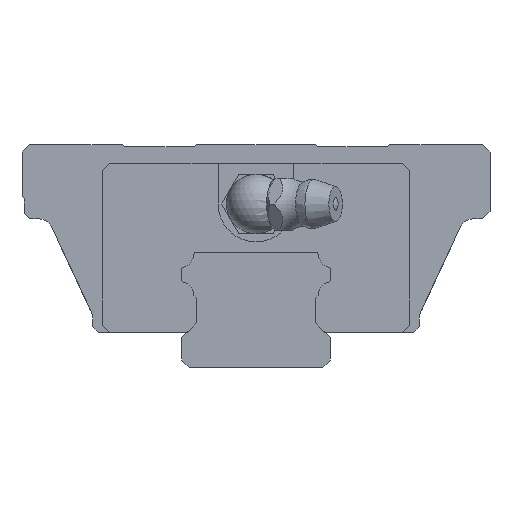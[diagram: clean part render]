
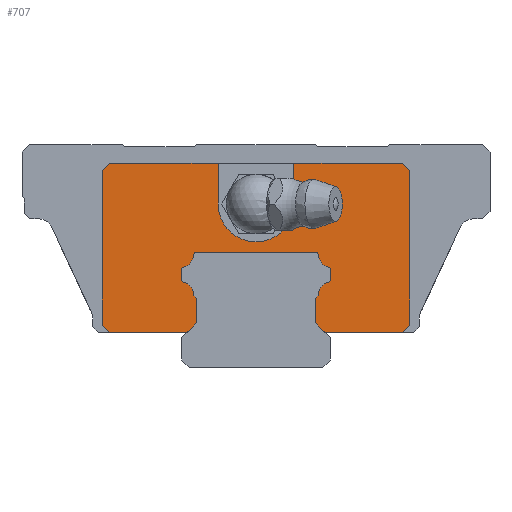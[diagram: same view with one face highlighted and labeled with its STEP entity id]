
A CAD part, front view. The second image highlights one B-rep face of the part: STEP entity #707.
In plain terms, the highlighted planar face has unit normal (0, -1, 0).
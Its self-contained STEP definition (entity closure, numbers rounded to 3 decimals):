
#564=CIRCLE('',#3988,5.1);
#565=CIRCLE('',#3993,1.9);
#566=CIRCLE('',#3994,0.3);
#567=CIRCLE('',#3995,0.3);
#568=CIRCLE('',#3996,1.9);
#569=CIRCLE('',#3997,0.3);
#570=CIRCLE('',#3998,0.3);
#571=CIRCLE('',#3999,1.9);
#572=CIRCLE('',#4000,0.3);
#573=CIRCLE('',#4001,0.3);
#574=CIRCLE('',#4002,1.9);
#707=ADVANCED_FACE('',(#1011),#877,.T.);
#877=PLANE('',#4003);
#1011=FACE_OUTER_BOUND('',#1210,.T.);
#1210=EDGE_LOOP('',(#1747,#1748,#1749,#1750,#1751,#1752,#1753,#1754,#1755,
#1756,#1757,#1758,#1759,#1760,#1761,#1762,#1763,#1764,#1765,#1766,#1767,
#1768,#1769,#1770,#1771,#1772,#1773,#1774,#1775,#1776,#1777,#1778));
#1747=ORIENTED_EDGE('',*,*,#2915,.T.);
#1748=ORIENTED_EDGE('',*,*,#2916,.T.);
#1749=ORIENTED_EDGE('',*,*,#2917,.F.);
#1750=ORIENTED_EDGE('',*,*,#2918,.F.);
#1751=ORIENTED_EDGE('',*,*,#2919,.F.);
#1752=ORIENTED_EDGE('',*,*,#2920,.F.);
#1753=ORIENTED_EDGE('',*,*,#2921,.F.);
#1754=ORIENTED_EDGE('',*,*,#2909,.T.);
#1755=ORIENTED_EDGE('',*,*,#2906,.T.);
#1756=ORIENTED_EDGE('',*,*,#2914,.T.);
#1757=ORIENTED_EDGE('',*,*,#2922,.F.);
#1758=ORIENTED_EDGE('',*,*,#2923,.F.);
#1759=ORIENTED_EDGE('',*,*,#2924,.F.);
#1760=ORIENTED_EDGE('',*,*,#2925,.F.);
#1761=ORIENTED_EDGE('',*,*,#2926,.F.);
#1762=ORIENTED_EDGE('',*,*,#2927,.T.);
#1763=ORIENTED_EDGE('',*,*,#2928,.T.);
#1764=ORIENTED_EDGE('',*,*,#2929,.T.);
#1765=ORIENTED_EDGE('',*,*,#2930,.T.);
#1766=ORIENTED_EDGE('',*,*,#2931,.T.);
#1767=ORIENTED_EDGE('',*,*,#2932,.T.);
#1768=ORIENTED_EDGE('',*,*,#2933,.T.);
#1769=ORIENTED_EDGE('',*,*,#2934,.T.);
#1770=ORIENTED_EDGE('',*,*,#2935,.T.);
#1771=ORIENTED_EDGE('',*,*,#2936,.T.);
#1772=ORIENTED_EDGE('',*,*,#2937,.T.);
#1773=ORIENTED_EDGE('',*,*,#2938,.T.);
#1774=ORIENTED_EDGE('',*,*,#2939,.T.);
#1775=ORIENTED_EDGE('',*,*,#2940,.T.);
#1776=ORIENTED_EDGE('',*,*,#2941,.T.);
#1777=ORIENTED_EDGE('',*,*,#2942,.T.);
#1778=ORIENTED_EDGE('',*,*,#2943,.T.);
#2511=VERTEX_POINT('',#5806);
#2512=VERTEX_POINT('',#5808);
#2514=VERTEX_POINT('',#5814);
#2516=VERTEX_POINT('',#5822);
#2517=VERTEX_POINT('',#5826);
#2518=VERTEX_POINT('',#5827);
#2519=VERTEX_POINT('',#5829);
#2520=VERTEX_POINT('',#5831);
#2521=VERTEX_POINT('',#5833);
#2522=VERTEX_POINT('',#5835);
#2523=VERTEX_POINT('',#5837);
#2524=VERTEX_POINT('',#5840);
#2525=VERTEX_POINT('',#5842);
#2526=VERTEX_POINT('',#5844);
#2527=VERTEX_POINT('',#5846);
#2528=VERTEX_POINT('',#5848);
#2529=VERTEX_POINT('',#5850);
#2530=VERTEX_POINT('',#5852);
#2531=VERTEX_POINT('',#5854);
#2532=VERTEX_POINT('',#5856);
#2533=VERTEX_POINT('',#5858);
#2534=VERTEX_POINT('',#5860);
#2535=VERTEX_POINT('',#5862);
#2536=VERTEX_POINT('',#5864);
#2537=VERTEX_POINT('',#5866);
#2538=VERTEX_POINT('',#5868);
#2539=VERTEX_POINT('',#5870);
#2540=VERTEX_POINT('',#5872);
#2541=VERTEX_POINT('',#5874);
#2542=VERTEX_POINT('',#5876);
#2543=VERTEX_POINT('',#5878);
#2544=VERTEX_POINT('',#5880);
#2906=EDGE_CURVE('',#2512,#2511,#564,.T.);
#2909=EDGE_CURVE('',#2514,#2512,#3323,.T.);
#2914=EDGE_CURVE('',#2511,#2516,#3328,.T.);
#2915=EDGE_CURVE('',#2517,#2518,#3329,.T.);
#2916=EDGE_CURVE('',#2518,#2519,#3330,.T.);
#2917=EDGE_CURVE('',#2520,#2519,#3331,.T.);
#2918=EDGE_CURVE('',#2521,#2520,#3332,.T.);
#2919=EDGE_CURVE('',#2522,#2521,#3333,.T.);
#2920=EDGE_CURVE('',#2523,#2522,#3334,.T.);
#2921=EDGE_CURVE('',#2514,#2523,#3335,.T.);
#2922=EDGE_CURVE('',#2524,#2516,#3336,.T.);
#2923=EDGE_CURVE('',#2525,#2524,#3337,.T.);
#2924=EDGE_CURVE('',#2526,#2525,#3338,.T.);
#2925=EDGE_CURVE('',#2527,#2526,#3339,.T.);
#2926=EDGE_CURVE('',#2528,#2527,#3340,.T.);
#2927=EDGE_CURVE('',#2528,#2529,#3341,.T.);
#2928=EDGE_CURVE('',#2529,#2530,#3342,.T.);
#2929=EDGE_CURVE('',#2530,#2531,#3343,.T.);
#2930=EDGE_CURVE('',#2531,#2532,#565,.T.);
#2931=EDGE_CURVE('',#2532,#2533,#566,.T.);
#2932=EDGE_CURVE('',#2533,#2534,#3344,.T.);
#2933=EDGE_CURVE('',#2534,#2535,#567,.T.);
#2934=EDGE_CURVE('',#2535,#2536,#568,.T.);
#2935=EDGE_CURVE('',#2536,#2537,#569,.T.);
#2936=EDGE_CURVE('',#2537,#2538,#3345,.T.);
#2937=EDGE_CURVE('',#2538,#2539,#570,.T.);
#2938=EDGE_CURVE('',#2539,#2540,#571,.T.);
#2939=EDGE_CURVE('',#2540,#2541,#572,.T.);
#2940=EDGE_CURVE('',#2541,#2542,#3346,.T.);
#2941=EDGE_CURVE('',#2542,#2543,#573,.T.);
#2942=EDGE_CURVE('',#2543,#2544,#574,.T.);
#2943=EDGE_CURVE('',#2544,#2517,#3347,.T.);
#3323=LINE('',#5813,#3653);
#3328=LINE('',#5823,#3658);
#3329=LINE('',#5825,#3659);
#3330=LINE('',#5828,#3660);
#3331=LINE('',#5830,#3661);
#3332=LINE('',#5832,#3662);
#3333=LINE('',#5834,#3663);
#3334=LINE('',#5836,#3664);
#3335=LINE('',#5838,#3665);
#3336=LINE('',#5839,#3666);
#3337=LINE('',#5841,#3667);
#3338=LINE('',#5843,#3668);
#3339=LINE('',#5845,#3669);
#3340=LINE('',#5847,#3670);
#3341=LINE('',#5849,#3671);
#3342=LINE('',#5851,#3672);
#3343=LINE('',#5853,#3673);
#3344=LINE('',#5859,#3674);
#3345=LINE('',#5867,#3675);
#3346=LINE('',#5875,#3676);
#3347=LINE('',#5881,#3677);
#3653=VECTOR('',#4598,1.);
#3658=VECTOR('',#4607,1.);
#3659=VECTOR('',#4610,1.);
#3660=VECTOR('',#4611,1.);
#3661=VECTOR('',#4612,1.);
#3662=VECTOR('',#4613,1.);
#3663=VECTOR('',#4614,1.);
#3664=VECTOR('',#4615,1.);
#3665=VECTOR('',#4616,1.);
#3666=VECTOR('',#4617,1.);
#3667=VECTOR('',#4618,1.);
#3668=VECTOR('',#4619,1.);
#3669=VECTOR('',#4620,1.);
#3670=VECTOR('',#4621,1.);
#3671=VECTOR('',#4622,1.);
#3672=VECTOR('',#4623,1.);
#3673=VECTOR('',#4624,1.);
#3674=VECTOR('',#4629,1.);
#3675=VECTOR('',#4636,1.);
#3676=VECTOR('',#4643,1.);
#3677=VECTOR('',#4648,1.);
#3988=AXIS2_PLACEMENT_3D('',#5807,#4592,#4593);
#3993=AXIS2_PLACEMENT_3D('',#5855,#4625,#4626);
#3994=AXIS2_PLACEMENT_3D('',#5857,#4627,#4628);
#3995=AXIS2_PLACEMENT_3D('',#5861,#4630,#4631);
#3996=AXIS2_PLACEMENT_3D('',#5863,#4632,#4633);
#3997=AXIS2_PLACEMENT_3D('',#5865,#4634,#4635);
#3998=AXIS2_PLACEMENT_3D('',#5869,#4637,#4638);
#3999=AXIS2_PLACEMENT_3D('',#5871,#4639,#4640);
#4000=AXIS2_PLACEMENT_3D('',#5873,#4641,#4642);
#4001=AXIS2_PLACEMENT_3D('',#5877,#4644,#4645);
#4002=AXIS2_PLACEMENT_3D('',#5879,#4646,#4647);
#4003=AXIS2_PLACEMENT_3D('',#5882,#4649,#4650);
#4592=DIRECTION('',(0.,1.,0.));
#4593=DIRECTION('',(-1.,0.,0.));
#4598=DIRECTION('',(0.,0.,-1.));
#4607=DIRECTION('',(0.,0.,1.));
#4610=DIRECTION('',(0.,0.,-1.));
#4611=DIRECTION('',(0.707,0.,-0.707));
#4612=DIRECTION('',(-1.,0.,0.));
#4613=DIRECTION('',(-0.707,0.,-0.707));
#4614=DIRECTION('',(0.,0.,-1.));
#4615=DIRECTION('',(0.707,0.,-0.707));
#4616=DIRECTION('',(1.,0.,0.));
#4617=DIRECTION('',(1.,0.,0.));
#4618=DIRECTION('',(0.707,0.,0.707));
#4619=DIRECTION('',(0.,0.,1.));
#4620=DIRECTION('',(-0.707,0.,0.707));
#4621=DIRECTION('',(-1.,0.,0.));
#4622=DIRECTION('',(0.707,0.,0.707));
#4623=DIRECTION('',(0.,0.,1.));
#4624=DIRECTION('',(-0.707,0.,0.707));
#4625=DIRECTION('',(0.,-1.,0.));
#4626=DIRECTION('',(1.,0.,0.));
#4627=DIRECTION('',(0.,1.,0.));
#4628=DIRECTION('',(1.,0.,0.));
#4629=DIRECTION('',(0.,0.,1.));
#4630=DIRECTION('',(0.,1.,0.));
#4631=DIRECTION('',(1.,0.,0.));
#4632=DIRECTION('',(0.,-1.,0.));
#4633=DIRECTION('',(1.,0.,0.));
#4634=DIRECTION('',(0.,1.,0.));
#4635=DIRECTION('',(1.,0.,0.));
#4636=DIRECTION('',(1.,0.,0.));
#4637=DIRECTION('',(0.,1.,0.));
#4638=DIRECTION('',(1.,0.,0.));
#4639=DIRECTION('',(0.,-1.,0.));
#4640=DIRECTION('',(1.,0.,0.));
#4641=DIRECTION('',(0.,1.,0.));
#4642=DIRECTION('',(1.,0.,0.));
#4643=DIRECTION('',(0.,0.,-1.));
#4644=DIRECTION('',(0.,1.,0.));
#4645=DIRECTION('',(1.,0.,0.));
#4646=DIRECTION('',(0.,-1.,0.));
#4647=DIRECTION('',(1.,0.,0.));
#4648=DIRECTION('',(-0.707,0.,-0.707));
#4649=DIRECTION('',(0.,-1.,0.));
#4650=DIRECTION('',(0.,0.,-1.));
#5806=CARTESIAN_POINT('',(-5.1,-19.6,22.));
#5807=CARTESIAN_POINT('',(0.,-19.6,22.));
#5808=CARTESIAN_POINT('',(5.1,-19.6,22.));
#5813=CARTESIAN_POINT('',(5.1,-19.6,27.5));
#5814=CARTESIAN_POINT('',(5.1,-19.6,27.5));
#5822=CARTESIAN_POINT('',(-5.1,-19.6,27.5));
#5823=CARTESIAN_POINT('',(-5.1,-19.6,22.));
#5825=CARTESIAN_POINT('',(8.,-19.6,22.));
#5826=CARTESIAN_POINT('',(8.,-19.6,9.3));
#5827=CARTESIAN_POINT('',(8.,-19.6,6.));
#5828=CARTESIAN_POINT('',(-4.,-19.6,18.));
#5829=CARTESIAN_POINT('',(9.3,-19.6,4.7));
#5830=CARTESIAN_POINT('',(19.7,-19.6,4.7));
#5831=CARTESIAN_POINT('',(19.7,-19.6,4.7));
#5832=CARTESIAN_POINT('',(20.7,-19.6,5.7));
#5833=CARTESIAN_POINT('',(20.7,-19.6,5.7));
#5834=CARTESIAN_POINT('',(20.7,-19.6,26.5));
#5835=CARTESIAN_POINT('',(20.7,-19.6,26.5));
#5836=CARTESIAN_POINT('',(19.7,-19.6,27.5));
#5837=CARTESIAN_POINT('',(19.7,-19.6,27.5));
#5838=CARTESIAN_POINT('',(-19.7,-19.6,27.5));
#5839=CARTESIAN_POINT('',(-19.7,-19.6,27.5));
#5840=CARTESIAN_POINT('',(-19.7,-19.6,27.5));
#5841=CARTESIAN_POINT('',(-20.7,-19.6,26.5));
#5842=CARTESIAN_POINT('',(-20.7,-19.6,26.5));
#5843=CARTESIAN_POINT('',(-20.7,-19.6,5.7));
#5844=CARTESIAN_POINT('',(-20.7,-19.6,5.7));
#5845=CARTESIAN_POINT('',(-19.7,-19.6,4.7));
#5846=CARTESIAN_POINT('',(-19.7,-19.6,4.7));
#5847=CARTESIAN_POINT('',(19.7,-19.6,4.7));
#5848=CARTESIAN_POINT('',(-9.3,-19.6,4.7));
#5849=CARTESIAN_POINT('',(4.,-19.6,18.));
#5850=CARTESIAN_POINT('',(-8.,-19.6,6.));
#5851=CARTESIAN_POINT('',(-8.,-19.6,22.));
#5852=CARTESIAN_POINT('',(-8.,-19.6,9.3));
#5853=CARTESIAN_POINT('',(-10.35,-19.6,11.65));
#5854=CARTESIAN_POINT('',(-8.349,-19.6,9.649));
#5855=CARTESIAN_POINT('',(-10.249,-19.6,9.651));
#5856=CARTESIAN_POINT('',(-9.775,-19.6,11.49));
#5857=CARTESIAN_POINT('',(-9.7,-19.6,11.781));
#5858=CARTESIAN_POINT('',(-10.,-19.6,11.781));
#5859=CARTESIAN_POINT('',(-10.,-19.6,22.));
#5860=CARTESIAN_POINT('',(-10.,-19.6,13.219));
#5861=CARTESIAN_POINT('',(-9.7,-19.6,13.219));
#5862=CARTESIAN_POINT('',(-9.775,-19.6,13.51));
#5863=CARTESIAN_POINT('',(-10.249,-19.6,15.349));
#5864=CARTESIAN_POINT('',(-8.354,-19.6,15.22));
#5865=CARTESIAN_POINT('',(-8.055,-19.6,15.2));
#5866=CARTESIAN_POINT('',(-8.055,-19.6,15.5));
#5867=CARTESIAN_POINT('',(0.,-19.6,15.5));
#5868=CARTESIAN_POINT('',(8.055,-19.6,15.5));
#5869=CARTESIAN_POINT('',(8.055,-19.6,15.2));
#5870=CARTESIAN_POINT('',(8.354,-19.6,15.22));
#5871=CARTESIAN_POINT('',(10.249,-19.6,15.349));
#5872=CARTESIAN_POINT('',(9.775,-19.6,13.51));
#5873=CARTESIAN_POINT('',(9.7,-19.6,13.219));
#5874=CARTESIAN_POINT('',(10.,-19.6,13.219));
#5875=CARTESIAN_POINT('',(10.,-19.6,22.));
#5876=CARTESIAN_POINT('',(10.,-19.6,11.781));
#5877=CARTESIAN_POINT('',(9.7,-19.6,11.781));
#5878=CARTESIAN_POINT('',(9.775,-19.6,11.49));
#5879=CARTESIAN_POINT('',(10.249,-19.6,9.651));
#5880=CARTESIAN_POINT('',(8.349,-19.6,9.649));
#5881=CARTESIAN_POINT('',(10.35,-19.6,11.65));
#5882=CARTESIAN_POINT('',(0.,-19.6,22.));
